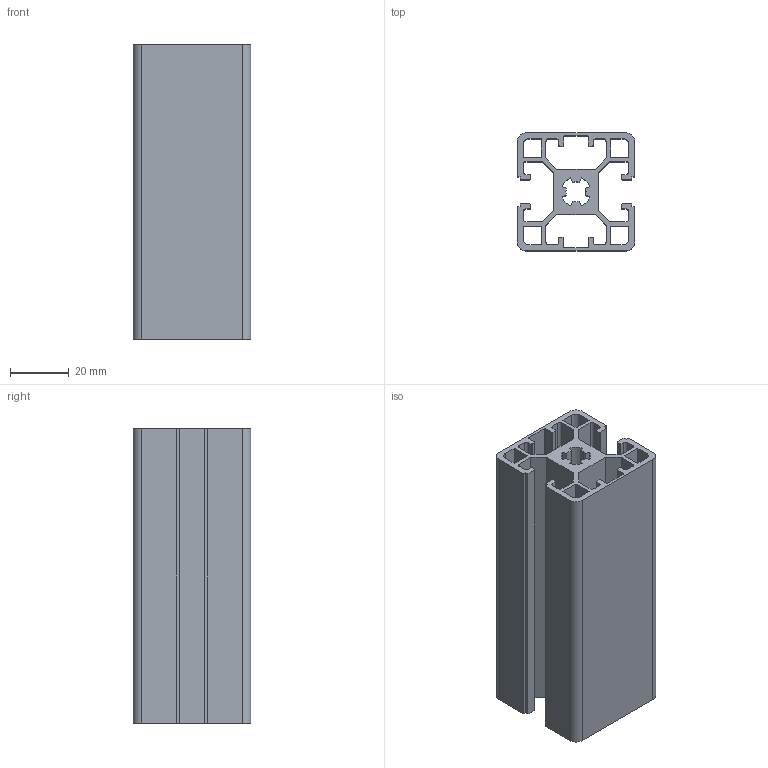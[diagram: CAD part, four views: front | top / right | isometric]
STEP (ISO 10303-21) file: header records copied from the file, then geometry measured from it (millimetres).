
FILE_DESCRIPTION (( 'STEP AP203' ), '1' );
FILE_NAME ('LIMA-4040L2SO-8.STEP', '2018-03-15T12:30:02', ( '' ), ( '' ), 'SwSTEP 2.0', 'SolidWorks 2013', '' );
FILE_SCHEMA (( 'CONFIG_CONTROL_DESIGN' ));
Length unit declared in the file: millimetre
Products named in the file (1): LIMA-4040L2SO-8
Bounding box: 40 x 40 x 100 mm (x, y, z)
Volume: 57707.3 mm3; surface area: 54111.1 mm2
Topology: 1 solids, 1 shells, 147 faces, 435 edges, 290 vertices
Faces by surface type: plane 94, cylinder 53
Entity records: 5020 total; most frequent: CARTESIAN_POINT 873, ORIENTED_EDGE 870, DIRECTION 837, EDGE_CURVE 435, LINE 329, VECTOR 329, VERTEX_POINT 290, AXIS2_PLACEMENT_3D 254
